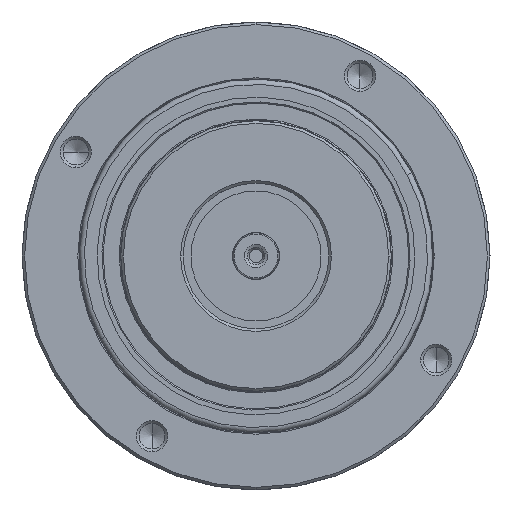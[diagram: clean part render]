
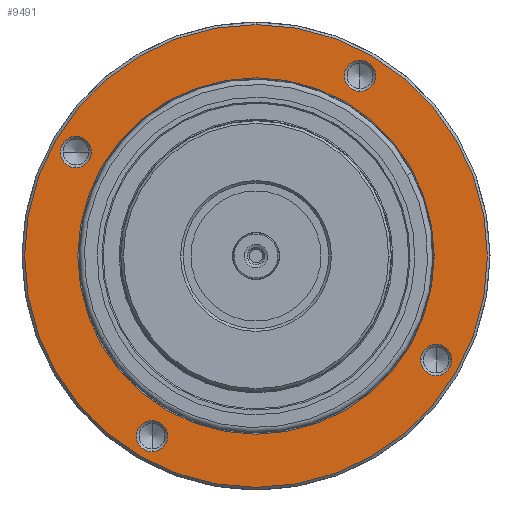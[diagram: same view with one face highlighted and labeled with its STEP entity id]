
A CAD part, left-side view. The second image highlights one B-rep face of the part: STEP entity #9491.
In plain terms, the highlighted planar face has unit normal (-1, 0, 0).
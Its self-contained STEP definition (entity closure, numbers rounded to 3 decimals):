
#81 = VERTEX_POINT ( 'NONE', #5786 ) ;
#118 = CIRCLE ( 'NONE', #8564, 3. ) ;
#119 = CARTESIAN_POINT ( 'NONE',  ( 0., -20., 34.641 ) ) ;
#177 = DIRECTION ( 'NONE',  ( 0., 0., -1. ) ) ;
#194 = VERTEX_POINT ( 'NONE', #876 ) ;
#338 = AXIS2_PLACEMENT_3D ( 'NONE', #1056, #5571, #1873 ) ;
#406 = CARTESIAN_POINT ( 'NONE',  ( 0., 20., -37.641 ) ) ;
#430 = EDGE_CURVE ( 'NONE', #4106, #1764, #8110, .T. ) ;
#497 = EDGE_LOOP ( 'NONE', ( #3214, #5693 ) ) ;
#716 = DIRECTION ( 'NONE',  ( 0., 1., 0. ) ) ;
#862 = CARTESIAN_POINT ( 'NONE',  ( 0., 0., 0. ) ) ;
#876 = CARTESIAN_POINT ( 'NONE',  ( 0., -20., 37.641 ) ) ;
#884 = ORIENTED_EDGE ( 'NONE', *, *, #6030, .T. ) ;
#957 = EDGE_CURVE ( 'NONE', #8782, #6698, #7508, .T. ) ;
#1056 = CARTESIAN_POINT ( 'NONE',  ( 0., 0., 0. ) ) ;
#1131 = AXIS2_PLACEMENT_3D ( 'NONE', #119, #5997, #2392 ) ;
#1150 = CIRCLE ( 'NONE', #5920, 44.5 ) ;
#1184 = CARTESIAN_POINT ( 'NONE',  ( 0., -37.641, -20. ) ) ;
#1336 = CARTESIAN_POINT ( 'NONE',  ( 0., 34.641, 20. ) ) ;
#1392 = AXIS2_PLACEMENT_3D ( 'NONE', #9418, #2140, #716 ) ;
#1475 = CARTESIAN_POINT ( 'NONE',  ( 0., 0., -34.268 ) ) ;
#1543 = VERTEX_POINT ( 'NONE', #7063 ) ;
#1562 = CIRCLE ( 'NONE', #6156, 3. ) ;
#1568 = AXIS2_PLACEMENT_3D ( 'NONE', #9502, #2941, #8077 ) ;
#1666 = DIRECTION ( 'NONE',  ( -1., 0., 0. ) ) ;
#1764 = VERTEX_POINT ( 'NONE', #1475 ) ;
#1873 = DIRECTION ( 'NONE',  ( 0., 0., 1. ) ) ;
#1912 = AXIS2_PLACEMENT_3D ( 'NONE', #2953, #6563, #2904 ) ;
#2008 = DIRECTION ( 'NONE',  ( 0., 0., -1. ) ) ;
#2063 = VERTEX_POINT ( 'NONE', #2901 ) ;
#2088 = ORIENTED_EDGE ( 'NONE', *, *, #3336, .F. ) ;
#2111 = CARTESIAN_POINT ( 'NONE',  ( 0., 0., 0. ) ) ;
#2115 = CARTESIAN_POINT ( 'NONE',  ( 0., -31.641, -20. ) ) ;
#2140 = DIRECTION ( 'NONE',  ( 1., 0., 0. ) ) ;
#2220 = EDGE_CURVE ( 'NONE', #194, #6238, #1562, .T. ) ;
#2301 = CARTESIAN_POINT ( 'NONE',  ( 0., 0., -34.268 ) ) ;
#2317 = CIRCLE ( 'NONE', #1392, 3. ) ;
#2382 = CIRCLE ( 'NONE', #1912, 3. ) ;
#2392 = DIRECTION ( 'NONE',  ( 0., 0., -1. ) ) ;
#2406 = CARTESIAN_POINT ( 'NONE',  ( 0., -20., 34.641 ) ) ;
#2418 = DIRECTION ( 'NONE',  ( 0., 0., -1. ) ) ;
#2435 = AXIS2_PLACEMENT_3D ( 'NONE', #4356, #7283, #3370 ) ;
#2449 = EDGE_CURVE ( 'NONE', #1764, #4106, #8440, .T. ) ;
#2486 = VERTEX_POINT ( 'NONE', #5418 ) ;
#2508 = CIRCLE ( 'NONE', #338, 44.5 ) ;
#2725 = CARTESIAN_POINT ( 'NONE',  ( 0., -20., 31.641 ) ) ;
#2888 = AXIS2_PLACEMENT_3D ( 'NONE', #2111, #7831, #2008 ) ;
#2901 = CARTESIAN_POINT ( 'NONE',  ( 0., 34.641, 17. ) ) ;
#2904 = DIRECTION ( 'NONE',  ( 0., 0., -1. ) ) ;
#2941 = DIRECTION ( 'NONE',  ( 1., 0., 0. ) ) ;
#2953 = CARTESIAN_POINT ( 'NONE',  ( 0., 34.641, 20. ) ) ;
#3017 = FACE_BOUND ( 'NONE', #8004, .T. ) ;
#3066 = PLANE ( 'NONE',  #3904 ) ;
#3214 = ORIENTED_EDGE ( 'NONE', *, *, #2449, .T. ) ;
#3336 = EDGE_CURVE ( 'NONE', #81, #2486, #2508, .T. ) ;
#3370 = DIRECTION ( 'NONE',  ( 0., 1., 0. ) ) ;
#3436 = CARTESIAN_POINT ( 'NONE',  ( 0., 34.641, 23. ) ) ;
#3508 = DIRECTION ( 'NONE',  ( 0., 0., -1. ) ) ;
#3606 = ORIENTED_EDGE ( 'NONE', *, *, #4547, .T. ) ;
#3817 = DIRECTION ( 'NONE',  ( 1., 0., 0. ) ) ;
#3836 = FACE_BOUND ( 'NONE', #3971, .T. ) ;
#3904 = AXIS2_PLACEMENT_3D ( 'NONE', #2301, #1666, #6043 ) ;
#3971 = EDGE_LOOP ( 'NONE', ( #884, #4228 ) ) ;
#4056 = CARTESIAN_POINT ( 'NONE',  ( 0., 20., -34.641 ) ) ;
#4106 = VERTEX_POINT ( 'NONE', #6453 ) ;
#4228 = ORIENTED_EDGE ( 'NONE', *, *, #8824, .T. ) ;
#4356 = CARTESIAN_POINT ( 'NONE',  ( 0., -34.641, -20. ) ) ;
#4482 = FACE_BOUND ( 'NONE', #8238, .T. ) ;
#4547 = EDGE_CURVE ( 'NONE', #6698, #8782, #2317, .T. ) ;
#5141 = EDGE_LOOP ( 'NONE', ( #8880, #5507 ) ) ;
#5165 = ORIENTED_EDGE ( 'NONE', *, *, #8928, .T. ) ;
#5266 = ORIENTED_EDGE ( 'NONE', *, *, #6121, .F. ) ;
#5302 = CIRCLE ( 'NONE', #1131, 3. ) ;
#5391 = DIRECTION ( 'NONE',  ( 0., 0., 1. ) ) ;
#5418 = CARTESIAN_POINT ( 'NONE',  ( 0., 0., 44.5 ) ) ;
#5507 = ORIENTED_EDGE ( 'NONE', *, *, #2220, .T. ) ;
#5571 = DIRECTION ( 'NONE',  ( 1., 0., 0. ) ) ;
#5587 = DIRECTION ( 'NONE',  ( 1., 0., 0. ) ) ;
#5638 = CIRCLE ( 'NONE', #9159, 3. ) ;
#5693 = ORIENTED_EDGE ( 'NONE', *, *, #430, .T. ) ;
#5786 = CARTESIAN_POINT ( 'NONE',  ( 0., 0., -44.5 ) ) ;
#5920 = AXIS2_PLACEMENT_3D ( 'NONE', #862, #3817, #5391 ) ;
#5997 = DIRECTION ( 'NONE',  ( 1., 0., 0. ) ) ;
#6030 = EDGE_CURVE ( 'NONE', #2063, #7018, #2382, .T. ) ;
#6043 = DIRECTION ( 'NONE',  ( 0., 0., -1. ) ) ;
#6054 = ORIENTED_EDGE ( 'NONE', *, *, #7289, .T. ) ;
#6072 = CARTESIAN_POINT ( 'NONE',  ( 0., 20., -34.641 ) ) ;
#6121 = EDGE_CURVE ( 'NONE', #2486, #81, #1150, .T. ) ;
#6156 = AXIS2_PLACEMENT_3D ( 'NONE', #2406, #6788, #177 ) ;
#6179 = VERTEX_POINT ( 'NONE', #406 ) ;
#6238 = VERTEX_POINT ( 'NONE', #2725 ) ;
#6453 = CARTESIAN_POINT ( 'NONE',  ( 0., 0., 34.268 ) ) ;
#6563 = DIRECTION ( 'NONE',  ( 1., 0., 0. ) ) ;
#6698 = VERTEX_POINT ( 'NONE', #1184 ) ;
#6762 = DIRECTION ( 'NONE',  ( 1., 0., 0. ) ) ;
#6788 = DIRECTION ( 'NONE',  ( 1., 0., 0. ) ) ;
#6922 = ORIENTED_EDGE ( 'NONE', *, *, #957, .T. ) ;
#7018 = VERTEX_POINT ( 'NONE', #3436 ) ;
#7063 = CARTESIAN_POINT ( 'NONE',  ( 0., 20., -31.641 ) ) ;
#7283 = DIRECTION ( 'NONE',  ( 1., 0., 0. ) ) ;
#7289 = EDGE_CURVE ( 'NONE', #6179, #1543, #118, .T. ) ;
#7392 = FACE_BOUND ( 'NONE', #5141, .T. ) ;
#7508 = CIRCLE ( 'NONE', #2435, 3. ) ;
#7831 = DIRECTION ( 'NONE',  ( 1., 0., 0. ) ) ;
#8004 = EDGE_LOOP ( 'NONE', ( #6054, #5165 ) ) ;
#8077 = DIRECTION ( 'NONE',  ( 0., 0., -1. ) ) ;
#8110 = CIRCLE ( 'NONE', #2888, 34.268 ) ;
#8211 = FACE_OUTER_BOUND ( 'NONE', #8632, .T. ) ;
#8238 = EDGE_LOOP ( 'NONE', ( #6922, #3606 ) ) ;
#8440 = CIRCLE ( 'NONE', #1568, 34.268 ) ;
#8484 = DIRECTION ( 'NONE',  ( 1., 0., 0. ) ) ;
#8516 = DIRECTION ( 'NONE',  ( 0., 0., -1. ) ) ;
#8564 = AXIS2_PLACEMENT_3D ( 'NONE', #6072, #6762, #2418 ) ;
#8632 = EDGE_LOOP ( 'NONE', ( #5266, #2088 ) ) ;
#8719 = AXIS2_PLACEMENT_3D ( 'NONE', #1336, #8484, #3508 ) ;
#8782 = VERTEX_POINT ( 'NONE', #2115 ) ;
#8824 = EDGE_CURVE ( 'NONE', #7018, #2063, #8864, .T. ) ;
#8864 = CIRCLE ( 'NONE', #8719, 3. ) ;
#8871 = FACE_BOUND ( 'NONE', #497, .T. ) ;
#8880 = ORIENTED_EDGE ( 'NONE', *, *, #9506, .T. ) ;
#8928 = EDGE_CURVE ( 'NONE', #1543, #6179, #5638, .T. ) ;
#9159 = AXIS2_PLACEMENT_3D ( 'NONE', #4056, #5587, #8516 ) ;
#9418 = CARTESIAN_POINT ( 'NONE',  ( 0., -34.641, -20. ) ) ;
#9491 = ADVANCED_FACE ( 'NONE', ( #8871, #3017, #4482, #7392, #3836, #8211 ), #3066, .T. ) ;
#9502 = CARTESIAN_POINT ( 'NONE',  ( 0., 0., 0. ) ) ;
#9506 = EDGE_CURVE ( 'NONE', #6238, #194, #5302, .T. ) ;
